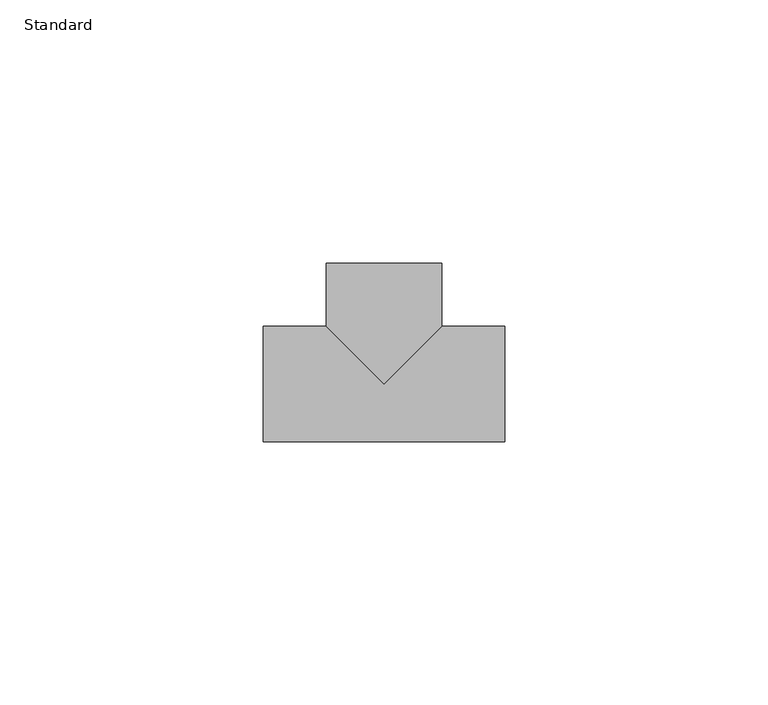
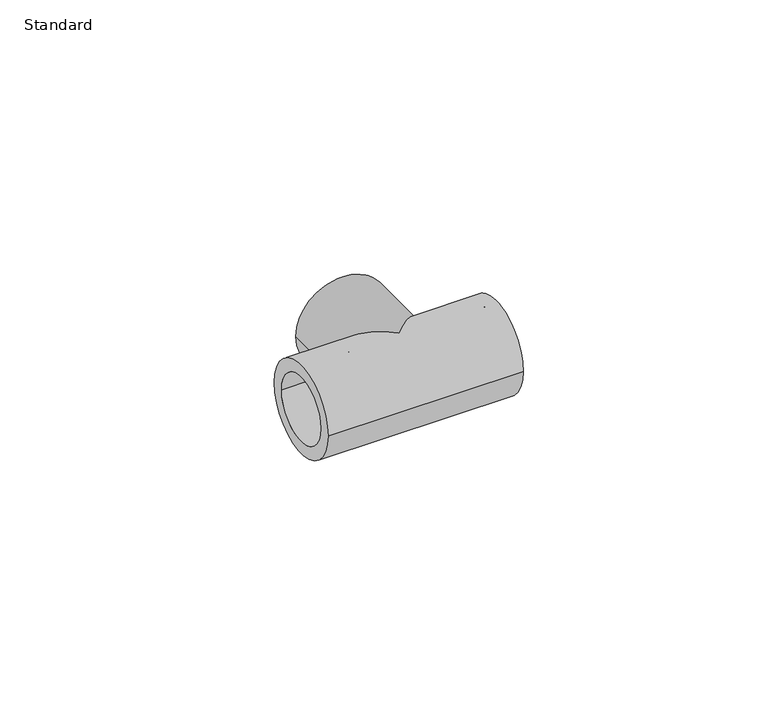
"""IFC4 building model written with IfcOpenShell, lengths in millimetres: pipe fitting geometry, Durapipe_PipeFitting_PVC_Tee90degEqual : Standard."""

from ifc_helpers import new_model, si_unit, frame, origin, place, context, project, spatial, polyline, circle_curve, ellipse_curve, source, transform, mapped, element, save
from ifc_brep_helpers import plane_surface, cylinder_surface, revolved_surface, advanced_brep


def standard_14331bdb(model_context):
    return source(origin(), model_context, "Body", "AdvancedBrep", [
        advanced_brep(
        [(-11.0, 23.0, 0.0), (11.0, 23.0, 0.0), (-8.0, 23.0, 0.0), (8.0, 23.0, 0.0), (-11.0, 11.0, 0.0), (0.0, 0.0, 11.0), (11.0, 11.0, 0.0), (0.0, 0.0, -11.0), (-23.0, -11.0, 0.0), (-23.0, 11.0, 0.0), (-23.0, -8.0, 0.0), (-23.0, 8.0, 0.0), (23.0, -11.0, 0.0), (23.0, 11.0, 0.0), (23.0, 8.0, 0.0), (23.0, -8.0, 0.0), (8.0, 9.0, 0.0), (-8.0, 9.0, 0.0), (0.0, 9.0, 0.0), (9.0, -8.0, 0.0), (9.0, 8.0, 0.0), (9.0, 0.0, 0.0), (-9.0, -8.0, 0.0), (-9.0, 8.0, 0.0), (-9.0, 0.0, 0.0)],
        [
            (0, 1, circle_curve(frame((0.0, 23.0, 0.0), z_axis=(0.0, 1.0, 0.0), x_axis=(1.0, 0.0, 0.0)), 11.0)),
            (1, 0, circle_curve(frame((0.0, 23.0, 0.0), z_axis=(0.0, 1.0, 0.0), x_axis=(1.0, 0.0, 0.0)), 11.0)),
            (2, 3, circle_curve(frame((0.0, 23.0, 0.0), z_axis=(0.0, -1.0, 0.0), x_axis=(-1.0, 0.0, 0.0)), 8.0)),
            (3, 2, circle_curve(frame((0.0, 23.0, 0.0), z_axis=(0.0, -1.0, 0.0), x_axis=(-1.0, 0.0, 0.0)), 8.0)),
            (0, 4),
            (4, 5, ellipse_curve(frame((0.0, 0.0, 0.0), z_axis=(0.7071067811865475, 0.7071067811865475, 0.0), x_axis=(-0.7071067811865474, 0.7071067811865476, 0.0)), 15.5563492, 11.0)),
            (5, 6, ellipse_curve(frame((0.0, 0.0, 0.0), z_axis=(-0.7071067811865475, 0.7071067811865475, 0.0), x_axis=(0.7071067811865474, 0.7071067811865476, 0.0)), 15.5563492, 11.0)),
            (6, 1),
            (6, 7, ellipse_curve(frame((0.0, 0.0, 0.0), z_axis=(-0.7071067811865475, 0.7071067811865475, 0.0), x_axis=(0.7071067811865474, 0.7071067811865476, 0.0)), 15.5563492, 11.0)),
            (7, 4, ellipse_curve(frame((0.0, 0.0, 0.0), z_axis=(0.7071067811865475, 0.7071067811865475, 0.0), x_axis=(-0.7071067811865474, 0.7071067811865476, 0.0)), 15.5563492, 11.0)),
            (8, 9, circle_curve(frame((-23.0, 0.0, 0.0), z_axis=(-1.0, 0.0, 0.0), x_axis=(0.0, 1.0, 0.0)), 11.0)),
            (9, 8, circle_curve(frame((-23.0, 0.0, 0.0), z_axis=(-1.0, 0.0, 0.0), x_axis=(0.0, 1.0, 0.0)), 11.0)),
            (10, 11, circle_curve(frame((-23.0, 0.0, 0.0), z_axis=(1.0, 0.0, 0.0), x_axis=(0.0, 1.0, 0.0)), 8.0)),
            (11, 10, circle_curve(frame((-23.0, 0.0, 0.0), z_axis=(1.0, 0.0, 0.0), x_axis=(0.0, 1.0, 0.0)), 8.0)),
            (12, 13, circle_curve(frame((23.0, 0.0, 0.0), z_axis=(1.0, 0.0, 0.0), x_axis=(0.0, 1.0, 0.0)), 11.0)),
            (13, 12, circle_curve(frame((23.0, 0.0, 0.0), z_axis=(1.0, 0.0, 0.0), x_axis=(0.0, 1.0, 0.0)), 11.0)),
            (14, 15, circle_curve(frame((23.0, 0.0, 0.0), z_axis=(-1.0, 0.0, 0.0), x_axis=(0.0, 1.0, 0.0)), 8.0)),
            (15, 14, circle_curve(frame((23.0, 0.0, 0.0), z_axis=(-1.0, 0.0, 0.0), x_axis=(0.0, 1.0, 0.0)), 8.0)),
            (8, 12),
            (13, 6),
            (4, 9),
            (16, 3),
            (2, 17),
            (17, 16, circle_curve(frame((0.0, 9.0, 0.0), z_axis=(0.0, -1.0, 0.0), x_axis=(-1.0, 0.0, 0.0)), 8.0)),
            (16, 17, circle_curve(frame((0.0, 9.0, 0.0), z_axis=(0.0, -1.0, 0.0), x_axis=(-1.0, 0.0, 0.0)), 8.0)),
            (17, 18),
            (18, 16),
            (19, 15),
            (14, 20),
            (20, 19, circle_curve(frame((9.0, 0.0, 0.0), z_axis=(-1.0, 0.0, 0.0), x_axis=(0.0, 1.0, 0.0)), 8.0)),
            (19, 20, circle_curve(frame((9.0, 0.0, 0.0), z_axis=(-1.0, 0.0, 0.0), x_axis=(0.0, 1.0, 0.0)), 8.0)),
            (20, 21),
            (21, 19),
            (10, 22),
            (22, 23, circle_curve(frame((-9.0, 0.0, 0.0), z_axis=(1.0, 0.0, 0.0), x_axis=(0.0, 1.0, 0.0)), 8.0)),
            (23, 11),
            (23, 22, circle_curve(frame((-9.0, 0.0, 0.0), z_axis=(1.0, 0.0, 0.0), x_axis=(0.0, 1.0, 0.0)), 8.0)),
            (22, 24),
            (24, 23),
        ],
        [
            plane_surface(frame((0.0, 23.0, 0.0), z_axis=(0.0, 1.0, 0.0), x_axis=(0.0, 0.0, 1.0))),
            cylinder_surface(frame((0.0, 23.0, 0.0), z_axis=(0.0, 1.0, 0.0), x_axis=(1.0, 0.0, 0.0)), 11.0),
            plane_surface(frame((-23.0, 0.0, 0.0), z_axis=(-1.0, 0.0, 0.0), x_axis=(0.0, 0.0, 1.0))),
            plane_surface(frame((23.0, 0.0, 0.0), z_axis=(1.0, 0.0, 0.0), x_axis=(0.0, 0.0, 1.0))),
            cylinder_surface(frame((-23.0, 0.0, 0.0), z_axis=(-1.0, 0.0, 0.0), x_axis=(0.0, 1.0, 0.0)), 11.0),
            revolved_surface(polyline([(-8.0, 9.0, 0.0), (-8.0, 23.0, 0.0)]), (0.0, 1998.0, 0.0), (0.0, -1.0, 0.0)),
            plane_surface(frame((0.0, 9.0, 0.0), z_axis=(0.0, 1.0, 0.0), x_axis=(-1.0, 0.0, 0.0))),
            revolved_surface(polyline([(9.0, 8.0, 0.0), (23.0, 8.0, 0.0)]), (1999.5, 0.0, 0.0), (-1.0, 0.0, 0.0)),
            plane_surface(frame((9.0, 0.0, 0.0), z_axis=(1.0, 0.0, 0.0), x_axis=(0.0, 1.0, 0.0))),
            revolved_surface(polyline([(-23.0, 8.0, 0.0), (-9.0, 8.0, 0.0)]), (1999.5, 0.0, 0.0), (-1.0, 0.0, 0.0)),
            plane_surface(frame((-9.0, 0.0, 0.0), z_axis=(-1.0, 0.0, 0.0), x_axis=(0.0, 1.0, 0.0))),
        ],
        [
            (0, [[1, 2], [3, 4]]),
            (1, [[-1, 5, 6, 7, 8]]),
            (1, [[-2, -8, 9, 10, -5]]),
            (2, [[11, 12], [13, 14]]),
            (3, [[15, 16], [17, 18]]),
            (4, [[-11, 19, -16, 20, -7, -6, 21]]),
            (4, [[-12, -21, -10, -9, -20, -15, -19]]),
            (5, [[22, -3, 23, 24]]),
            (5, [[-22, 25, -23, -4]]),
            (6, [[-24, 26, 27]]),
            (6, [[-25, -27, -26]]),
            (7, [[28, -17, 29, 30]]),
            (7, [[-28, 31, -29, -18]]),
            (8, [[-30, 32, 33]]),
            (8, [[-31, -33, -32]]),
            (9, [[34, 35, 36, -13]]),
            (9, [[-34, -14, -36, 37]]),
            (10, [[-35, 38, 39]]),
            (10, [[-37, -39, -38]]),
        ],
    ),
    ])


if __name__ == "__main__":
    model = new_model("IFC4")
    model_context = context("Model", 3, world=origin())
    ifc_project = project(units=[si_unit("LENGTHUNIT", "METRE", prefix="MILLI")], contexts=[model_context])
    site = spatial("IfcSite", under=ifc_project)
    building = spatial("IfcBuilding", under=site)
    placement = place(None, origin())
    standard_shape = standard_14331bdb(model_context)
    element("IfcPipeFitting", 1, ObjectType="Durapipe_PipeFitting_PVC_Tee90degEqual : Standard", at=placement, inside=building, context=model_context, shape_type="MappedRepresentation", body=[
        mapped(standard_shape, transform((0.0, 0.0, 0.0), x_axis=(1.0, 0.0, 0.0), y_axis=(0.0, 1.0, 0.0), z_axis=(0.0, 0.0, 1.0))),
    ])
    save(model, "model.ifc")
